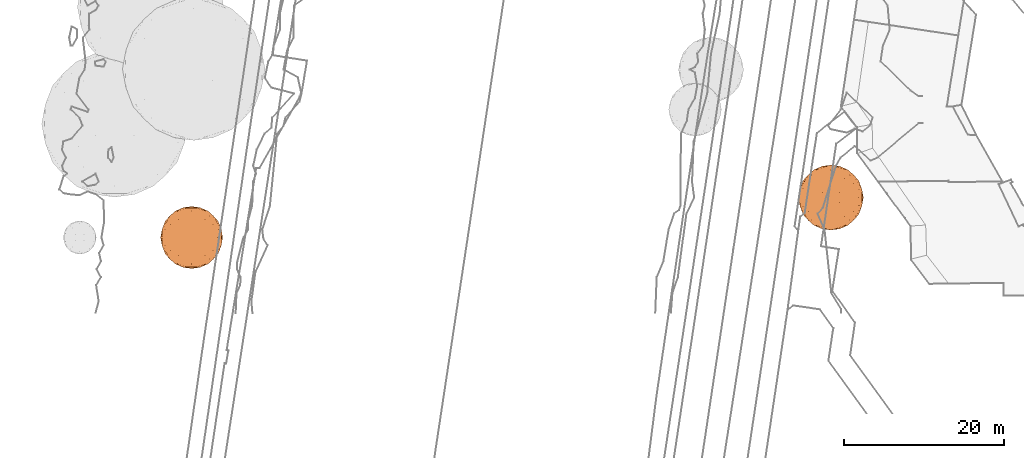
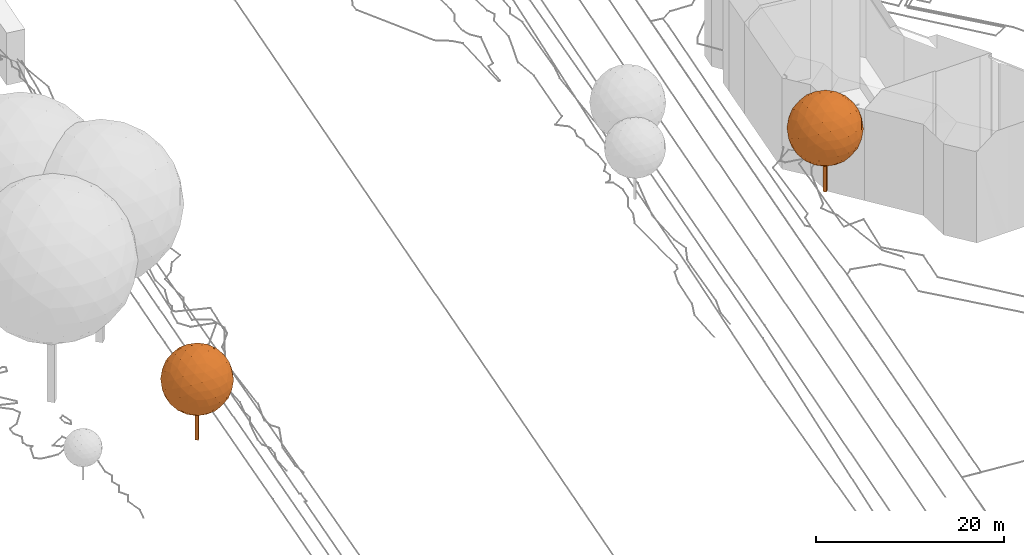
# Not in any storey, part 296 of 477: 2 geographic elements.
"""IFC4 model written with IfcOpenShell, lengths in metres."""

from ifc_helpers import new_model, si_unit, frame, origin_with_axes, place, context, subcontext, project, spatial, polygons, element, save


model = new_model("IFC4")

# Units and contexts
model_context = context("Model", 3, precision=1e-05, world=origin_with_axes())
body_context = subcontext(model_context, "Body", "Model", "MODEL_VIEW")
ifc_project = project(units=[si_unit("AREAUNIT", "SQUARE_METRE"), si_unit("LENGTHUNIT", "METRE")], contexts=[model_context])

# Sites
site_1_placement = place(None, origin_with_axes())
site_1 = spatial("IfcSite", under=ifc_project, at=site_1_placement, Name="Topoexport Site")
site_2_placement = place(site_1_placement, origin_with_axes())
site_2 = spatial("IfcSite", under=site_1, at=site_2_placement, Name="TPX_TREES")

# Geographic elements
geographic_element_1_placement = place(site_2_placement, frame((676.6777320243, 13.1707427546, 503.4809548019), z_axis=(0.0, 0.0, 1.0), x_axis=(1.0, 0.0, 0.0)))
element("IfcGeographicElement", 1, at=geographic_element_1_placement, inside=site_2, Name="Tree TR2 CD81", ObjectType="VEGETATION", PredefinedType="USERDEFINED", context=body_context, shape_type="Tessellation", body=[
    polygons([(0.0, -0.2591513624, 0.0), (-0.2591513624, 0.0, 0.0), (0.0, 0.2591513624, 0.0), (0.2591513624, 0.0, 0.0), (0.0, -0.2591513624, 8.1414801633), (-0.2591513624, 0.0, 8.1414801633), (0.0, 0.2591513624, 8.1414801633), (0.2591513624, 0.0, 8.1414801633)], [[[3, 4, 1]], [[1, 2, 3]], [[5, 8, 7]], [[7, 6, 5]], [[5, 6, 1]], [[1, 6, 2]], [[6, 7, 2]], [[2, 7, 3]], [[8, 5, 4]], [[4, 5, 1]], [[7, 8, 3]], [[3, 8, 4]]]),
    polygons([(-2.1401147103, 3.462778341, 8.1414801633), (2.1401147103, 3.462778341, 8.1414801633), (-2.1401147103, -3.462778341, 8.1414801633), (2.1401147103, -3.462778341, 8.1414801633), (0.0, -2.1401147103, 11.6042585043), (0.0, 2.1401147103, 11.6042585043), (0.0, -2.1401147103, 4.6787018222), (0.0, 2.1401147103, 4.6787018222), (3.462778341, 0.0, 6.001365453), (3.462778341, 0.0, 10.2815948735), (-3.462778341, 0.0, 6.001365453), (-3.462778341, 0.0, 10.2815948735), (0.0, 4.0707400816, 8.1414801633), (0.0, -4.0707400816, 8.1414801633), (-1.2579278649, -3.2932979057, 10.1768502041), (1.2579278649, -3.2932979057, 10.1768502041), (-1.2579278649, 3.2932979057, 10.1768502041), (1.2579278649, 3.2932979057, 10.1768502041), (0.0, 0.0, 12.2122202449), (-1.2579278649, -3.2932979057, 6.1061101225), (1.2579278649, -3.2932979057, 6.1061101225), (-1.2579278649, 3.2932979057, 6.1061101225), (1.2579278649, 3.2932979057, 6.1061101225), (0.0, 0.0, 4.0707400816), (3.2932979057, 2.0353700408, 6.8835522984), (3.2932979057, -2.0353700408, 6.8835522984), (2.0353700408, -1.2579278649, 4.8481822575), (2.0353700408, 1.2579278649, 4.8481822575), (3.2932979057, 2.0353700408, 9.3994080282), (3.2932979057, -2.0353700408, 9.3994080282), (2.0353700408, -1.2579278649, 11.434778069), (2.0353700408, 1.2579278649, 11.434778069), (4.0707400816, 0.0, 8.1414801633), (-3.2932979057, 2.0353700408, 6.8835522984), (-3.2932979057, -2.0353700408, 6.8835522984), (-2.0353700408, -1.2579278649, 4.8481822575), (-2.0353700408, 1.2579278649, 4.8481822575), (-3.2932979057, 2.0353700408, 9.3994080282), (-3.2932979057, -2.0353700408, 9.3994080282), (-2.0353700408, -1.2579278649, 11.434778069), (-2.0353700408, 1.2579278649, 11.434778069), (-4.0707400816, 0.0, 8.1414801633), (-1.1123970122, 3.9158010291, 8.1414801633), (1.1123970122, 3.9158010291, 8.1414801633), (-1.1123970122, -3.9158010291, 8.1414801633), (1.1123970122, -3.9158010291, 8.1414801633), (-1.7662475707, -3.5116991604, 9.1994325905), (-0.6538505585, -2.8241999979, 10.9993287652), (-0.6613318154, -3.8715038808, 9.2115375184), (1.7662475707, -3.5116991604, 9.1994325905), (0.6538505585, -2.8241999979, 10.9993287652), (0.6613318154, -3.8715038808, 9.2115375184), (0.0, -3.462778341, 10.2815948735), (-1.7662475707, 3.5116991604, 9.1994325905), (-0.6538505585, 2.8241999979, 10.9993287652), (-0.6613318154, 3.8715038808, 9.2115375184), (1.7662475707, 3.5116991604, 9.1994325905), (0.6538505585, 2.8241999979, 10.9993287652), (0.6613318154, 3.8715038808, 9.2115375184), (0.0, 3.462778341, 10.2815948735), (0.0, -1.1123970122, 12.0572811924), (0.0, 1.1123970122, 12.0572811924), (-1.7662475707, -3.5116991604, 7.0835277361), (-0.6538505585, -2.8241999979, 5.2836315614), (-0.6613318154, -3.8715038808, 7.0714228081), (1.7662475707, -3.5116991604, 7.0835277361), (0.6538505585, -2.8241999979, 5.2836315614), (0.6613318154, -3.8715038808, 7.0714228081), (0.0, -3.462778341, 6.001365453), (-1.7662475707, 3.5116991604, 7.0835277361), (-0.6538505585, 2.8241999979, 5.2836315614), (-0.6613318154, 3.8715038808, 7.0714228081), (1.7662475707, 3.5116991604, 7.0835277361), (0.6538505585, 2.8241999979, 5.2836315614), (0.6613318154, 3.8715038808, 7.0714228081), (0.0, 3.462778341, 6.001365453), (0.0, -1.1123970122, 4.2256791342), (0.0, 1.1123970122, 4.2256791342), (2.8241999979, 2.8578486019, 7.4876296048), (3.5116991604, 1.0579524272, 6.3752325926), (2.3927209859, 2.8014465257, 6.4100909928), (2.8241999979, -2.8578486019, 7.4876296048), (3.5116991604, -1.0579524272, 6.3752325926), (2.3927209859, -2.8014465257, 6.4100909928), (1.0579524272, -1.7662475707, 4.6297810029), (2.8578486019, -0.6538505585, 5.3172801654), (1.7313891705, -2.3927209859, 5.3400336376), (1.0700573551, -0.6613318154, 4.2699762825), (2.8014465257, -1.7313891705, 5.7487591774), (1.0579524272, 1.7662475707, 4.6297810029), (2.8578486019, 0.6538505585, 5.3172801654), (1.7313891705, 2.3927209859, 5.3400336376), (1.0700573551, 0.6613318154, 4.2699762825), (2.8014465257, 1.7313891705, 5.7487591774), (2.1401147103, 0.0, 4.6787018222), (2.8241999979, 2.8578486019, 8.7953307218), (3.5116991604, 1.0579524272, 9.907727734), (2.3927209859, 2.8014465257, 9.8728693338), (3.462778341, 2.1401147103, 8.1414801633), (2.8241999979, -2.8578486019, 8.7953307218), (3.5116991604, -1.0579524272, 9.907727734), (2.3927209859, -2.8014465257, 9.8728693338), (3.462778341, -2.1401147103, 8.1414801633), (1.0579524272, -1.7662475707, 11.6531793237), (2.8578486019, -0.6538505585, 10.9656801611), (1.7313891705, -2.3927209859, 10.9429266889), (1.0700573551, -0.6613318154, 12.0129840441), (2.8014465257, -1.7313891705, 10.5342011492), (1.0579524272, 1.7662475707, 11.6531793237), (2.8578486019, 0.6538505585, 10.9656801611), (1.7313891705, 2.3927209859, 10.9429266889), (1.0700573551, 0.6613318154, 12.0129840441), (2.8014465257, 1.7313891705, 10.5342011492), (2.1401147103, 0.0, 11.6042585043), (3.9158010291, 0.0, 7.0290831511), (3.9158010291, 0.0, 9.2538771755), (3.8715038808, 1.0700573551, 7.4801483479), (3.8715038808, -1.0700573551, 7.4801483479), (3.8715038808, 1.0700573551, 8.8028119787), (3.8715038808, -1.0700573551, 8.8028119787), (-2.8241999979, 2.8578486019, 7.4876296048), (-3.5116991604, 1.0579524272, 6.3752325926), (-2.3927209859, 2.8014465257, 6.4100909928), (-2.8241999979, -2.8578486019, 7.4876296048), (-3.5116991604, -1.0579524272, 6.3752325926), (-2.3927209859, -2.8014465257, 6.4100909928), (-1.0579524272, -1.7662475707, 4.6297810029), (-2.8578486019, -0.6538505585, 5.3172801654), (-1.7313891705, -2.3927209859, 5.3400336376), (-1.0700573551, -0.6613318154, 4.2699762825), (-2.8014465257, -1.7313891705, 5.7487591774), (-1.0579524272, 1.7662475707, 4.6297810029), (-2.8578486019, 0.6538505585, 5.3172801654), (-1.7313891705, 2.3927209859, 5.3400336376), (-1.0700573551, 0.6613318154, 4.2699762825), (-2.8014465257, 1.7313891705, 5.7487591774), (-2.1401147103, 0.0, 4.6787018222), (-2.8241999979, 2.8578486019, 8.7953307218), (-3.5116991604, 1.0579524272, 9.907727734), (-2.3927209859, 2.8014465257, 9.8728693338), (-3.462778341, 2.1401147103, 8.1414801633), (-2.8241999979, -2.8578486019, 8.7953307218), (-3.5116991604, -1.0579524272, 9.907727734), (-2.3927209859, -2.8014465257, 9.8728693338), (-3.462778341, -2.1401147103, 8.1414801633), (-1.0579524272, -1.7662475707, 11.6531793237), (-2.8578486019, -0.6538505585, 10.9656801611), (-1.7313891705, -2.3927209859, 10.9429266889), (-1.0700573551, -0.6613318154, 12.0129840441), (-2.8014465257, -1.7313891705, 10.5342011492), (-1.0579524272, 1.7662475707, 11.6531793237), (-2.8578486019, 0.6538505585, 10.9656801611), (-1.7313891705, 2.3927209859, 10.9429266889), (-1.0700573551, 0.6613318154, 12.0129840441), (-2.8014465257, 1.7313891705, 10.5342011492), (-2.1401147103, 0.0, 11.6042585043), (-3.9158010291, 0.0, 7.0290831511), (-3.9158010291, 0.0, 9.2538771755), (-3.8715038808, 1.0700573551, 7.4801483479), (-3.8715038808, -1.0700573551, 7.4801483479), (-3.8715038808, 1.0700573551, 8.8028119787), (-3.8715038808, -1.0700573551, 8.8028119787)], [[[1, 138, 54]], [[138, 38, 140]], [[54, 140, 17]], [[138, 140, 54]], [[38, 139, 155]], [[139, 12, 152]], [[155, 152, 41]], [[139, 152, 155]], [[17, 153, 55]], [[153, 41, 151]], [[55, 151, 6]], [[153, 151, 55]], [[38, 155, 140]], [[155, 41, 153]], [[140, 153, 17]], [[155, 153, 140]], [[1, 54, 43]], [[54, 17, 56]], [[43, 56, 13]], [[54, 56, 43]], [[17, 55, 60]], [[55, 6, 58]], [[60, 58, 18]], [[55, 58, 60]], [[13, 59, 44]], [[59, 18, 57]], [[44, 57, 2]], [[59, 57, 44]], [[17, 60, 56]], [[60, 18, 59]], [[56, 59, 13]], [[60, 59, 56]], [[1, 43, 70]], [[43, 13, 72]], [[70, 72, 22]], [[43, 72, 70]], [[13, 44, 75]], [[44, 2, 73]], [[75, 73, 23]], [[44, 73, 75]], [[22, 76, 71]], [[76, 23, 74]], [[71, 74, 8]], [[76, 74, 71]], [[13, 75, 72]], [[75, 23, 76]], [[72, 76, 22]], [[75, 76, 72]], [[1, 70, 121]], [[70, 22, 123]], [[121, 123, 34]], [[70, 123, 121]], [[22, 71, 134]], [[71, 8, 132]], [[134, 132, 37]], [[71, 132, 134]], [[34, 136, 122]], [[136, 37, 133]], [[122, 133, 11]], [[136, 133, 122]], [[22, 134, 123]], [[134, 37, 136]], [[123, 136, 34]], [[134, 136, 123]], [[1, 121, 138]], [[121, 34, 141]], [[138, 141, 38]], [[121, 141, 138]], [[34, 122, 159]], [[122, 11, 157]], [[159, 157, 42]], [[122, 157, 159]], [[38, 161, 139]], [[161, 42, 158]], [[139, 158, 12]], [[161, 158, 139]], [[34, 159, 141]], [[159, 42, 161]], [[141, 161, 38]], [[159, 161, 141]], [[2, 57, 96]], [[57, 18, 98]], [[96, 98, 29]], [[57, 98, 96]], [[18, 58, 111]], [[58, 6, 109]], [[111, 109, 32]], [[58, 109, 111]], [[29, 113, 97]], [[113, 32, 110]], [[97, 110, 10]], [[113, 110, 97]], [[18, 111, 98]], [[111, 32, 113]], [[98, 113, 29]], [[111, 113, 98]], [[6, 151, 62]], [[151, 41, 154]], [[62, 154, 19]], [[151, 154, 62]], [[41, 152, 156]], [[152, 12, 147]], [[156, 147, 40]], [[152, 147, 156]], [[19, 149, 61]], [[149, 40, 146]], [[61, 146, 5]], [[149, 146, 61]], [[41, 156, 154]], [[156, 40, 149]], [[154, 149, 19]], [[156, 149, 154]], [[12, 158, 143]], [[158, 42, 162]], [[143, 162, 39]], [[158, 162, 143]], [[42, 157, 160]], [[157, 11, 125]], [[160, 125, 35]], [[157, 125, 160]], [[39, 145, 142]], [[145, 35, 124]], [[142, 124, 3]], [[145, 124, 142]], [[42, 160, 162]], [[160, 35, 145]], [[162, 145, 39]], [[160, 145, 162]], [[11, 133, 128]], [[133, 37, 137]], [[128, 137, 36]], [[133, 137, 128]], [[37, 132, 135]], [[132, 8, 78]], [[135, 78, 24]], [[132, 78, 135]], [[36, 130, 127]], [[130, 24, 77]], [[127, 77, 7]], [[130, 77, 127]], [[37, 135, 137]], [[135, 24, 130]], [[137, 130, 36]], [[135, 130, 137]], [[8, 74, 90]], [[74, 23, 92]], [[90, 92, 28]], [[74, 92, 90]], [[23, 73, 81]], [[73, 2, 79]], [[81, 79, 25]], [[73, 79, 81]], [[28, 94, 91]], [[94, 25, 80]], [[91, 80, 9]], [[94, 80, 91]], [[23, 81, 92]], [[81, 25, 94]], [[92, 94, 28]], [[81, 94, 92]], [[4, 100, 50]], [[100, 30, 102]], [[50, 102, 16]], [[100, 102, 50]], [[30, 101, 108]], [[101, 10, 105]], [[108, 105, 31]], [[101, 105, 108]], [[16, 106, 51]], [[106, 31, 104]], [[51, 104, 5]], [[106, 104, 51]], [[30, 108, 102]], [[108, 31, 106]], [[102, 106, 16]], [[108, 106, 102]], [[4, 50, 46]], [[50, 16, 52]], [[46, 52, 14]], [[50, 52, 46]], [[16, 51, 53]], [[51, 5, 48]], [[53, 48, 15]], [[51, 48, 53]], [[14, 49, 45]], [[49, 15, 47]], [[45, 47, 3]], [[49, 47, 45]], [[16, 53, 52]], [[53, 15, 49]], [[52, 49, 14]], [[53, 49, 52]], [[4, 46, 66]], [[46, 14, 68]], [[66, 68, 21]], [[46, 68, 66]], [[14, 45, 65]], [[45, 3, 63]], [[65, 63, 20]], [[45, 63, 65]], [[21, 69, 67]], [[69, 20, 64]], [[67, 64, 7]], [[69, 64, 67]], [[14, 65, 68]], [[65, 20, 69]], [[68, 69, 21]], [[65, 69, 68]], [[4, 66, 82]], [[66, 21, 84]], [[82, 84, 26]], [[66, 84, 82]], [[21, 67, 87]], [[67, 7, 85]], [[87, 85, 27]], [[67, 85, 87]], [[26, 89, 83]], [[89, 27, 86]], [[83, 86, 9]], [[89, 86, 83]], [[21, 87, 84]], [[87, 27, 89]], [[84, 89, 26]], [[87, 89, 84]], [[4, 82, 100]], [[82, 26, 103]], [[100, 103, 30]], [[82, 103, 100]], [[26, 83, 118]], [[83, 9, 115]], [[118, 115, 33]], [[83, 115, 118]], [[30, 120, 101]], [[120, 33, 116]], [[101, 116, 10]], [[120, 116, 101]], [[26, 118, 103]], [[118, 33, 120]], [[103, 120, 30]], [[118, 120, 103]], [[5, 104, 61]], [[104, 31, 107]], [[61, 107, 19]], [[104, 107, 61]], [[31, 105, 114]], [[105, 10, 110]], [[114, 110, 32]], [[105, 110, 114]], [[19, 112, 62]], [[112, 32, 109]], [[62, 109, 6]], [[112, 109, 62]], [[31, 114, 107]], [[114, 32, 112]], [[107, 112, 19]], [[114, 112, 107]], [[3, 47, 142]], [[47, 15, 144]], [[142, 144, 39]], [[47, 144, 142]], [[15, 48, 148]], [[48, 5, 146]], [[148, 146, 40]], [[48, 146, 148]], [[39, 150, 143]], [[150, 40, 147]], [[143, 147, 12]], [[150, 147, 143]], [[15, 148, 144]], [[148, 40, 150]], [[144, 150, 39]], [[148, 150, 144]], [[7, 64, 127]], [[64, 20, 129]], [[127, 129, 36]], [[64, 129, 127]], [[20, 63, 126]], [[63, 3, 124]], [[126, 124, 35]], [[63, 124, 126]], [[36, 131, 128]], [[131, 35, 125]], [[128, 125, 11]], [[131, 125, 128]], [[20, 126, 129]], [[126, 35, 131]], [[129, 131, 36]], [[126, 131, 129]], [[9, 86, 91]], [[86, 27, 95]], [[91, 95, 28]], [[86, 95, 91]], [[27, 85, 88]], [[85, 7, 77]], [[88, 77, 24]], [[85, 77, 88]], [[28, 93, 90]], [[93, 24, 78]], [[90, 78, 8]], [[93, 78, 90]], [[27, 88, 95]], [[88, 24, 93]], [[95, 93, 28]], [[88, 93, 95]], [[10, 116, 97]], [[116, 33, 119]], [[97, 119, 29]], [[116, 119, 97]], [[33, 115, 117]], [[115, 9, 80]], [[117, 80, 25]], [[115, 80, 117]], [[29, 99, 96]], [[99, 25, 79]], [[96, 79, 2]], [[99, 79, 96]], [[33, 117, 119]], [[117, 25, 99]], [[119, 99, 29]], [[117, 99, 119]]]),
])
geographic_element_2_placement = place(site_2_placement, frame((596.6777320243, 8.170742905, 502.2923964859), z_axis=(0.0, 0.0, 1.0), x_axis=(1.0, 0.0, 0.0)))
element("IfcGeographicElement", 2, at=geographic_element_2_placement, inside=site_2, Name="Tree TR2 CD77", ObjectType="VEGETATION", PredefinedType="USERDEFINED", context=body_context, shape_type="Tessellation", body=[
    polygons([(0.0, -0.24760348, 0.0), (-0.24760348, 0.0, 0.0), (0.0, 0.24760348, 0.0), (0.24760348, 0.0, 0.0), (0.0, -0.24760348, 7.7786927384), (-0.24760348, 0.0, 7.7786927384), (0.0, 0.24760348, 7.7786927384), (0.24760348, 0.0, 7.7786927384)], [[[3, 4, 1]], [[1, 2, 3]], [[5, 8, 7]], [[7, 6, 5]], [[5, 6, 1]], [[1, 6, 2]], [[6, 7, 2]], [[2, 7, 3]], [[8, 5, 4]], [[4, 5, 1]], [[7, 8, 3]], [[3, 8, 4]]]),
    polygons([(-2.0447503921, 3.3084756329, 7.7786927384), (2.0447503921, 3.3084756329, 7.7786927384), (-2.0447503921, -3.3084756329, 7.7786927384), (2.0447503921, -3.3084756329, 7.7786927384), (0.0, -2.0447503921, 11.0871683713), (0.0, 2.0447503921, 11.0871683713), (0.0, -2.0447503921, 4.4702171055), (0.0, 2.0447503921, 4.4702171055), (3.3084756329, 0.0, 5.7339423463), (3.3084756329, 0.0, 9.8234431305), (-3.3084756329, 0.0, 5.7339423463), (-3.3084756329, 0.0, 9.8234431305), (0.0, 3.8893463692, 7.7786927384), (0.0, -3.8893463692, 7.7786927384), (-1.2018741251, -3.1465473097, 9.723365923), (1.2018741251, -3.1465473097, 9.723365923), (-1.2018741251, 3.1465473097, 9.723365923), (1.2018741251, 3.1465473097, 9.723365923), (0.0, 0.0, 11.6680391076), (-1.2018741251, -3.1465473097, 5.8340195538), (1.2018741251, -3.1465473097, 5.8340195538), (-1.2018741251, 3.1465473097, 5.8340195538), (1.2018741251, 3.1465473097, 5.8340195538), (0.0, 0.0, 3.8893463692), (3.1465473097, 1.9446731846, 6.5768186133), (3.1465473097, -1.9446731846, 6.5768186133), (1.9446731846, -1.2018741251, 4.6321454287), (1.9446731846, 1.2018741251, 4.6321454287), (3.1465473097, 1.9446731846, 8.9805668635), (3.1465473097, -1.9446731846, 8.9805668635), (1.9446731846, -1.2018741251, 10.9252400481), (1.9446731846, 1.2018741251, 10.9252400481), (3.8893463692, 0.0, 7.7786927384), (-3.1465473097, 1.9446731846, 6.5768186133), (-3.1465473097, -1.9446731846, 6.5768186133), (-1.9446731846, -1.2018741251, 4.6321454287), (-1.9446731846, 1.2018741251, 4.6321454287), (-3.1465473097, 1.9446731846, 8.9805668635), (-3.1465473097, -1.9446731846, 8.9805668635), (-1.9446731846, -1.2018741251, 10.9252400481), (-1.9446731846, 1.2018741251, 10.9252400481), (-3.8893463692, 0.0, 7.7786927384), (-1.0628281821, 3.7413114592, 7.7786927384), (1.0628281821, 3.7413114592, 7.7786927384), (-1.0628281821, -3.7413114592, 7.7786927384), (1.0628281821, -3.7413114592, 7.7786927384), (-1.6875429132, -3.3552165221, 8.7895024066), (-0.6247147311, -2.6983525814, 10.5091945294), (-0.6318626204, -3.6989882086, 8.8010679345), (1.6875429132, -3.3552165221, 8.7895024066), (0.6247147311, -2.6983525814, 10.5091945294), (0.6318626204, -3.6989882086, 8.8010679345), (0.0, -3.3084756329, 9.8234431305), (-1.6875429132, 3.3552165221, 8.7895024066), (-0.6247147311, 2.6983525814, 10.5091945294), (-0.6318626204, 3.6989882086, 8.8010679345), (1.6875429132, 3.3552165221, 8.7895024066), (0.6247147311, 2.6983525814, 10.5091945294), (0.6318626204, 3.6989882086, 8.8010679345), (0.0, 3.3084756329, 9.8234431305), (0.0, -1.0628281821, 11.5200041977), (0.0, 1.0628281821, 11.5200041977), (-1.6875429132, -3.3552165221, 6.7678830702), (-0.6247147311, -2.6983525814, 5.0481909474), (-0.6318626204, -3.6989882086, 6.7563175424), (1.6875429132, -3.3552165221, 6.7678830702), (0.6247147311, -2.6983525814, 5.0481909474), (0.6318626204, -3.6989882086, 6.7563175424), (0.0, -3.3084756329, 5.7339423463), (-1.6875429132, 3.3552165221, 6.7678830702), (-0.6247147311, 2.6983525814, 5.0481909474), (-0.6318626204, 3.6989882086, 6.7563175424), (1.6875429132, 3.3552165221, 6.7678830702), (0.6247147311, 2.6983525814, 5.0481909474), (0.6318626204, 3.6989882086, 6.7563175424), (0.0, 3.3084756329, 5.7339423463), (0.0, -1.0628281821, 4.0373812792), (0.0, 1.0628281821, 4.0373812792), (2.6983525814, 2.730501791, 7.1539780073), (3.3552165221, 1.0108096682, 6.0911498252), (2.2861004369, 2.6766130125, 6.1244549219), (2.6983525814, -2.730501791, 7.1539780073), (3.3552165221, -1.0108096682, 6.0911498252), (2.2861004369, -2.6766130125, 6.1244549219), (1.0108096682, -1.6875429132, 4.4234762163), (2.730501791, -0.6247147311, 5.080340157), (1.6542378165, -2.2861004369, 5.1020797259), (1.022375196, -0.6318626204, 4.0797045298), (2.6766130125, -1.6542378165, 5.4925923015), (1.0108096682, 1.6875429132, 4.4234762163), (2.730501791, 0.6247147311, 5.080340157), (1.6542378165, 2.2861004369, 5.1020797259), (1.022375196, 0.6318626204, 4.0797045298), (2.6766130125, 1.6542378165, 5.4925923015), (2.0447503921, 0.0, 4.4702171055), (2.6983525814, 2.730501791, 8.4034074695), (3.3552165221, 1.0108096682, 9.4662356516), (2.2861004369, 2.6766130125, 9.4329305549), (3.3084756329, 2.0447503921, 7.7786927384), (2.6983525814, -2.730501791, 8.4034074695), (3.3552165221, -1.0108096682, 9.4662356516), (2.2861004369, -2.6766130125, 9.4329305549), (3.3084756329, -2.0447503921, 7.7786927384), (1.0108096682, -1.6875429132, 11.1339092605), (2.730501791, -0.6247147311, 10.4770453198), (1.6542378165, -2.2861004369, 10.4553057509), (1.022375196, -0.6318626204, 11.477680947), (2.6766130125, -1.6542378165, 10.0647931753), (1.0108096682, 1.6875429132, 11.1339092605), (2.730501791, 0.6247147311, 10.4770453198), (1.6542378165, 2.2861004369, 10.4553057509), (1.022375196, 0.6318626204, 11.477680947), (2.6766130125, 1.6542378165, 10.0647931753), (2.0447503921, 0.0, 11.0871683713), (3.7413114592, 0.0, 6.7158645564), (3.7413114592, 0.0, 8.8415209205), (3.6989882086, 1.022375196, 7.146830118), (3.6989882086, -1.022375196, 7.146830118), (3.6989882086, 1.022375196, 8.4105553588), (3.6989882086, -1.022375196, 8.4105553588), (-2.6983525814, 2.730501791, 7.1539780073), (-3.3552165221, 1.0108096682, 6.0911498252), (-2.2861004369, 2.6766130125, 6.1244549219), (-2.6983525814, -2.730501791, 7.1539780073), (-3.3552165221, -1.0108096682, 6.0911498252), (-2.2861004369, -2.6766130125, 6.1244549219), (-1.0108096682, -1.6875429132, 4.4234762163), (-2.730501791, -0.6247147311, 5.080340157), (-1.6542378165, -2.2861004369, 5.1020797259), (-1.022375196, -0.6318626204, 4.0797045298), (-2.6766130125, -1.6542378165, 5.4925923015), (-1.0108096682, 1.6875429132, 4.4234762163), (-2.730501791, 0.6247147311, 5.080340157), (-1.6542378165, 2.2861004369, 5.1020797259), (-1.022375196, 0.6318626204, 4.0797045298), (-2.6766130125, 1.6542378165, 5.4925923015), (-2.0447503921, 0.0, 4.4702171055), (-2.6983525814, 2.730501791, 8.4034074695), (-3.3552165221, 1.0108096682, 9.4662356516), (-2.2861004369, 2.6766130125, 9.4329305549), (-3.3084756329, 2.0447503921, 7.7786927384), (-2.6983525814, -2.730501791, 8.4034074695), (-3.3552165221, -1.0108096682, 9.4662356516), (-2.2861004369, -2.6766130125, 9.4329305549), (-3.3084756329, -2.0447503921, 7.7786927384), (-1.0108096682, -1.6875429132, 11.1339092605), (-2.730501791, -0.6247147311, 10.4770453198), (-1.6542378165, -2.2861004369, 10.4553057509), (-1.022375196, -0.6318626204, 11.477680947), (-2.6766130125, -1.6542378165, 10.0647931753), (-1.0108096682, 1.6875429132, 11.1339092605), (-2.730501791, 0.6247147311, 10.4770453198), (-1.6542378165, 2.2861004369, 10.4553057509), (-1.022375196, 0.6318626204, 11.477680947), (-2.6766130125, 1.6542378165, 10.0647931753), (-2.0447503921, 0.0, 11.0871683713), (-3.7413114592, 0.0, 6.7158645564), (-3.7413114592, 0.0, 8.8415209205), (-3.6989882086, 1.022375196, 7.146830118), (-3.6989882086, -1.022375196, 7.146830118), (-3.6989882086, 1.022375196, 8.4105553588), (-3.6989882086, -1.022375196, 8.4105553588)], [[[1, 138, 54]], [[138, 38, 140]], [[54, 140, 17]], [[138, 140, 54]], [[38, 139, 155]], [[139, 12, 152]], [[155, 152, 41]], [[139, 152, 155]], [[17, 153, 55]], [[153, 41, 151]], [[55, 151, 6]], [[153, 151, 55]], [[38, 155, 140]], [[155, 41, 153]], [[140, 153, 17]], [[155, 153, 140]], [[1, 54, 43]], [[54, 17, 56]], [[43, 56, 13]], [[54, 56, 43]], [[17, 55, 60]], [[55, 6, 58]], [[60, 58, 18]], [[55, 58, 60]], [[13, 59, 44]], [[59, 18, 57]], [[44, 57, 2]], [[59, 57, 44]], [[17, 60, 56]], [[60, 18, 59]], [[56, 59, 13]], [[60, 59, 56]], [[1, 43, 70]], [[43, 13, 72]], [[70, 72, 22]], [[43, 72, 70]], [[13, 44, 75]], [[44, 2, 73]], [[75, 73, 23]], [[44, 73, 75]], [[22, 76, 71]], [[76, 23, 74]], [[71, 74, 8]], [[76, 74, 71]], [[13, 75, 72]], [[75, 23, 76]], [[72, 76, 22]], [[75, 76, 72]], [[1, 70, 121]], [[70, 22, 123]], [[121, 123, 34]], [[70, 123, 121]], [[22, 71, 134]], [[71, 8, 132]], [[134, 132, 37]], [[71, 132, 134]], [[34, 136, 122]], [[136, 37, 133]], [[122, 133, 11]], [[136, 133, 122]], [[22, 134, 123]], [[134, 37, 136]], [[123, 136, 34]], [[134, 136, 123]], [[1, 121, 138]], [[121, 34, 141]], [[138, 141, 38]], [[121, 141, 138]], [[34, 122, 159]], [[122, 11, 157]], [[159, 157, 42]], [[122, 157, 159]], [[38, 161, 139]], [[161, 42, 158]], [[139, 158, 12]], [[161, 158, 139]], [[34, 159, 141]], [[159, 42, 161]], [[141, 161, 38]], [[159, 161, 141]], [[2, 57, 96]], [[57, 18, 98]], [[96, 98, 29]], [[57, 98, 96]], [[18, 58, 111]], [[58, 6, 109]], [[111, 109, 32]], [[58, 109, 111]], [[29, 113, 97]], [[113, 32, 110]], [[97, 110, 10]], [[113, 110, 97]], [[18, 111, 98]], [[111, 32, 113]], [[98, 113, 29]], [[111, 113, 98]], [[6, 151, 62]], [[151, 41, 154]], [[62, 154, 19]], [[151, 154, 62]], [[41, 152, 156]], [[152, 12, 147]], [[156, 147, 40]], [[152, 147, 156]], [[19, 149, 61]], [[149, 40, 146]], [[61, 146, 5]], [[149, 146, 61]], [[41, 156, 154]], [[156, 40, 149]], [[154, 149, 19]], [[156, 149, 154]], [[12, 158, 143]], [[158, 42, 162]], [[143, 162, 39]], [[158, 162, 143]], [[42, 157, 160]], [[157, 11, 125]], [[160, 125, 35]], [[157, 125, 160]], [[39, 145, 142]], [[145, 35, 124]], [[142, 124, 3]], [[145, 124, 142]], [[42, 160, 162]], [[160, 35, 145]], [[162, 145, 39]], [[160, 145, 162]], [[11, 133, 128]], [[133, 37, 137]], [[128, 137, 36]], [[133, 137, 128]], [[37, 132, 135]], [[132, 8, 78]], [[135, 78, 24]], [[132, 78, 135]], [[36, 130, 127]], [[130, 24, 77]], [[127, 77, 7]], [[130, 77, 127]], [[37, 135, 137]], [[135, 24, 130]], [[137, 130, 36]], [[135, 130, 137]], [[8, 74, 90]], [[74, 23, 92]], [[90, 92, 28]], [[74, 92, 90]], [[23, 73, 81]], [[73, 2, 79]], [[81, 79, 25]], [[73, 79, 81]], [[28, 94, 91]], [[94, 25, 80]], [[91, 80, 9]], [[94, 80, 91]], [[23, 81, 92]], [[81, 25, 94]], [[92, 94, 28]], [[81, 94, 92]], [[4, 100, 50]], [[100, 30, 102]], [[50, 102, 16]], [[100, 102, 50]], [[30, 101, 108]], [[101, 10, 105]], [[108, 105, 31]], [[101, 105, 108]], [[16, 106, 51]], [[106, 31, 104]], [[51, 104, 5]], [[106, 104, 51]], [[30, 108, 102]], [[108, 31, 106]], [[102, 106, 16]], [[108, 106, 102]], [[4, 50, 46]], [[50, 16, 52]], [[46, 52, 14]], [[50, 52, 46]], [[16, 51, 53]], [[51, 5, 48]], [[53, 48, 15]], [[51, 48, 53]], [[14, 49, 45]], [[49, 15, 47]], [[45, 47, 3]], [[49, 47, 45]], [[16, 53, 52]], [[53, 15, 49]], [[52, 49, 14]], [[53, 49, 52]], [[4, 46, 66]], [[46, 14, 68]], [[66, 68, 21]], [[46, 68, 66]], [[14, 45, 65]], [[45, 3, 63]], [[65, 63, 20]], [[45, 63, 65]], [[21, 69, 67]], [[69, 20, 64]], [[67, 64, 7]], [[69, 64, 67]], [[14, 65, 68]], [[65, 20, 69]], [[68, 69, 21]], [[65, 69, 68]], [[4, 66, 82]], [[66, 21, 84]], [[82, 84, 26]], [[66, 84, 82]], [[21, 67, 87]], [[67, 7, 85]], [[87, 85, 27]], [[67, 85, 87]], [[26, 89, 83]], [[89, 27, 86]], [[83, 86, 9]], [[89, 86, 83]], [[21, 87, 84]], [[87, 27, 89]], [[84, 89, 26]], [[87, 89, 84]], [[4, 82, 100]], [[82, 26, 103]], [[100, 103, 30]], [[82, 103, 100]], [[26, 83, 118]], [[83, 9, 115]], [[118, 115, 33]], [[83, 115, 118]], [[30, 120, 101]], [[120, 33, 116]], [[101, 116, 10]], [[120, 116, 101]], [[26, 118, 103]], [[118, 33, 120]], [[103, 120, 30]], [[118, 120, 103]], [[5, 104, 61]], [[104, 31, 107]], [[61, 107, 19]], [[104, 107, 61]], [[31, 105, 114]], [[105, 10, 110]], [[114, 110, 32]], [[105, 110, 114]], [[19, 112, 62]], [[112, 32, 109]], [[62, 109, 6]], [[112, 109, 62]], [[31, 114, 107]], [[114, 32, 112]], [[107, 112, 19]], [[114, 112, 107]], [[3, 47, 142]], [[47, 15, 144]], [[142, 144, 39]], [[47, 144, 142]], [[15, 48, 148]], [[48, 5, 146]], [[148, 146, 40]], [[48, 146, 148]], [[39, 150, 143]], [[150, 40, 147]], [[143, 147, 12]], [[150, 147, 143]], [[15, 148, 144]], [[148, 40, 150]], [[144, 150, 39]], [[148, 150, 144]], [[7, 64, 127]], [[64, 20, 129]], [[127, 129, 36]], [[64, 129, 127]], [[20, 63, 126]], [[63, 3, 124]], [[126, 124, 35]], [[63, 124, 126]], [[36, 131, 128]], [[131, 35, 125]], [[128, 125, 11]], [[131, 125, 128]], [[20, 126, 129]], [[126, 35, 131]], [[129, 131, 36]], [[126, 131, 129]], [[9, 86, 91]], [[86, 27, 95]], [[91, 95, 28]], [[86, 95, 91]], [[27, 85, 88]], [[85, 7, 77]], [[88, 77, 24]], [[85, 77, 88]], [[28, 93, 90]], [[93, 24, 78]], [[90, 78, 8]], [[93, 78, 90]], [[27, 88, 95]], [[88, 24, 93]], [[95, 93, 28]], [[88, 93, 95]], [[10, 116, 97]], [[116, 33, 119]], [[97, 119, 29]], [[116, 119, 97]], [[33, 115, 117]], [[115, 9, 80]], [[117, 80, 25]], [[115, 80, 117]], [[29, 99, 96]], [[99, 25, 79]], [[96, 79, 2]], [[99, 79, 96]], [[33, 117, 119]], [[117, 25, 99]], [[119, 99, 29]], [[117, 99, 119]]]),
])

save(model, "model.ifc")
